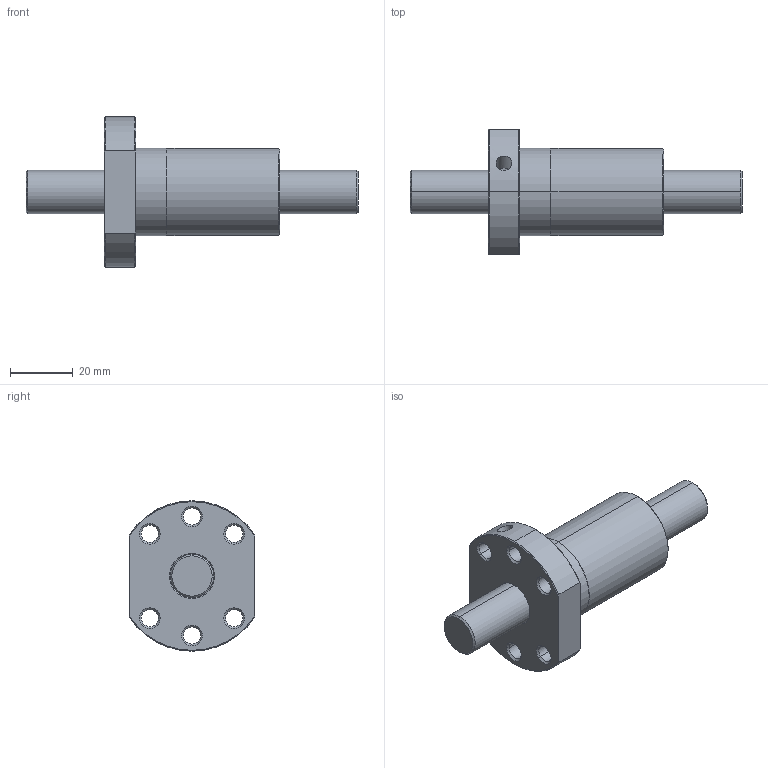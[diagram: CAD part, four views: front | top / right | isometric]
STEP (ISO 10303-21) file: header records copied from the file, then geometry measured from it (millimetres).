
FILE_DESCRIPTION(('no description'),'unknown implementation level');
FILE_NAME('R16_20K2_FSCDIN_106_106_0_052_3.stp',' ',('HIWIN GmbH'),('CADClick - KiM GmbH - www.kimweb.de'),'unknown preprocess','ACIS','unknown authorization');
FILE_SCHEMA(('automotive_design'));
Length unit declared in the file: millimetre
Products named in the file (2): 1; 2
Bounding box: 106 x 40 x 48 mm (x, y, z)
Volume: 50561.2 mm3; surface area: 16667 mm2
Topology: 2 solids, 2 shells, 78 faces, 176 edges, 103 vertices
Faces by surface type: cone 44, cylinder 26, plane 8
Entity records: 4297 total; most frequent: CARTESIAN_POINT 440, DIRECTION 416, STYLED_ITEM 357, PRESENTATION_STYLE_ASSIGNMENT 357, COLOUR_RGB 357, ORIENTED_EDGE 348, EDGE_CURVE 174, CURVE_STYLE 174
